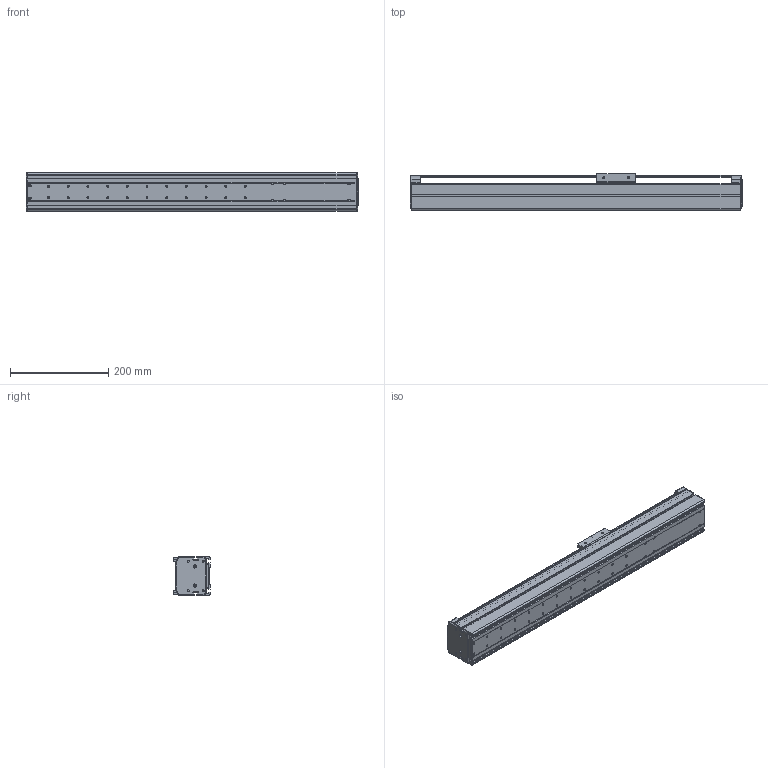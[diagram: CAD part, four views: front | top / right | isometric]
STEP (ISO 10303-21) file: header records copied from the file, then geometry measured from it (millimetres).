
FILE_DESCRIPTION((''),'2;1');
FILE_NAME('BE10E-ST-S_N-35_IGS_PRT','2017-06-17T',(' '),(''),'PRO/ENGINEER BY PARAMETRIC TECHNOLOGY CORPORATION, 2015030','PRO/ENGINEER BY PARAMETRIC TECHNOLOGY CORPORATION, 2015030','');
FILE_SCHEMA(('CONFIG_CONTROL_DESIGN'));
Length unit declared in the file: millimetre
Products named in the file (1): BE10E-ST-S_N-35_IGS_PRT
Bounding box: 675 x 75 x 78 mm (x, y, z)
Volume: 787714 mm3; surface area: 534259.8 mm2
Topology: 3 solids, 59 shells, 1109 faces, 2959 edges, 1912 vertices
Faces by surface type: cylinder 538, plane 418, torus 66, sphere 42, cone 38, bspline 7
Entity records: 35691 total; most frequent: CARTESIAN_POINT 7303, DIRECTION 6170, ORIENTED_EDGE 5664, EDGE_CURVE 2939, AXIS2_PLACEMENT_3D 2316, VERTEX_POINT 1912, VECTOR 1538, LINE 1538
